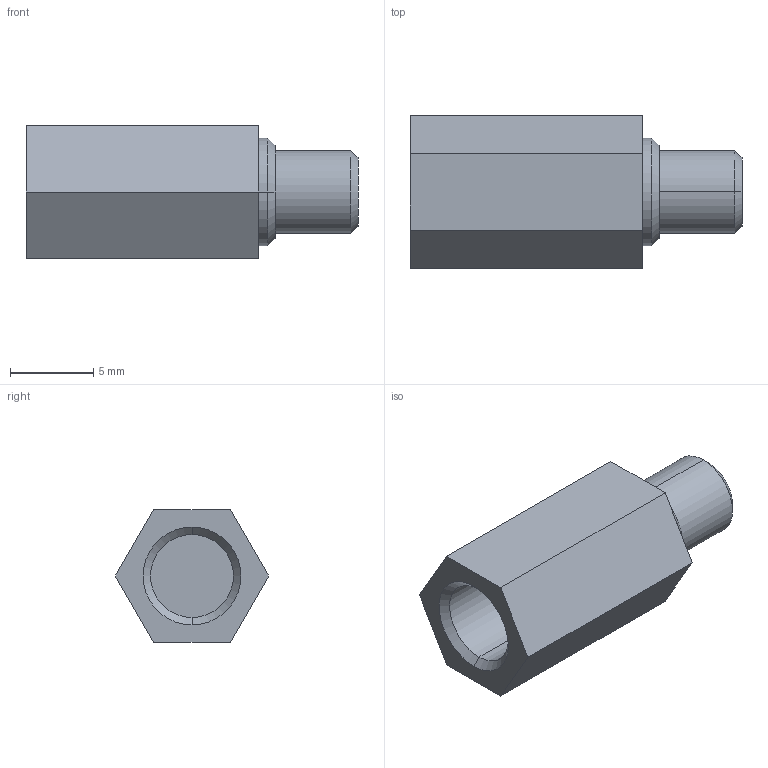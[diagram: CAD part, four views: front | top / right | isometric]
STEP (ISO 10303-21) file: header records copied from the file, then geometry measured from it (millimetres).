
FILE_DESCRIPTION((''),'2;1');
FILE_NAME('0821003005','2023-09-26T11:18:41',('THD3HC'),(''),'CREO PARAMETRIC BY PTC INC, 2020044','CREO PARAMETRIC BY PTC INC, 2020044','');
FILE_SCHEMA(('CONFIG_CONTROL_DESIGN','SHAPE_APPEARANCE_LAYERS_GROUPS'));
Length unit declared in the file: millimetre
Products named in the file (1): 0821003005
Bounding box: 20 x 9.24 x 8 mm (x, y, z)
Volume: 804 mm3; surface area: 662.4 mm2
Topology: 1 solids, 1 shells, 23 faces, 48 edges, 30 vertices
Faces by surface type: plane 11, cylinder 6, cone 6
Entity records: 805 total; most frequent: DIRECTION 112, CARTESIAN_POINT 101, ORIENTED_EDGE 96, PRESENTATION_STYLE_ASSIGNMENT 49, STYLED_ITEM 49, CURVE_STYLE 48, EDGE_CURVE 48, AXIS2_PLACEMENT_3D 41
